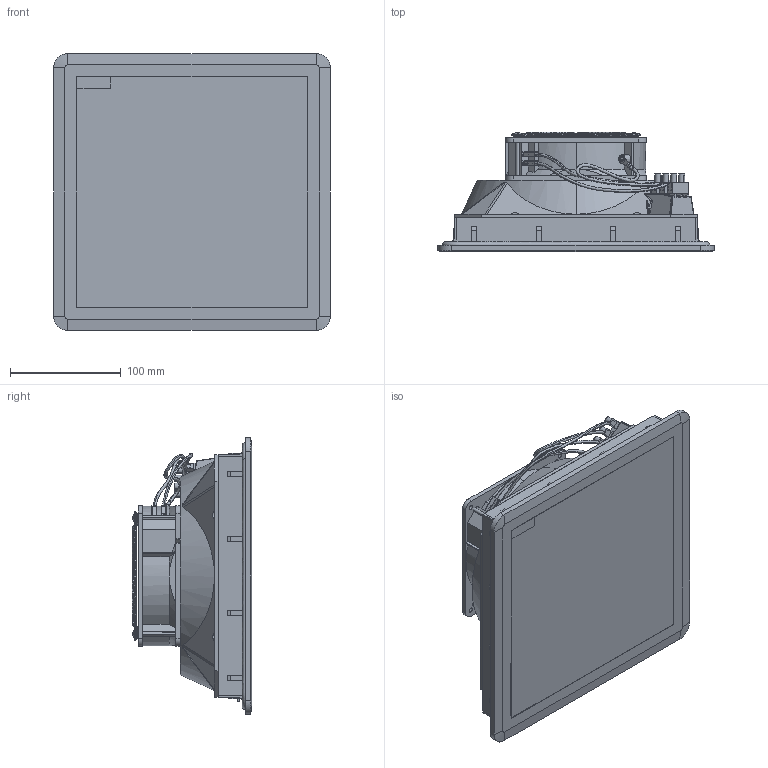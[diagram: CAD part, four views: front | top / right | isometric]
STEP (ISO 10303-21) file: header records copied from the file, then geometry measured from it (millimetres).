
FILE_DESCRIPTION(/* description */ (''),/* implementation_level */ '2;1');
FILE_NAME(/* name */ 'FP9E50~1',/* time_stamp */ '2019-06-26T12:15:24+02:00',/* author */ (''),/* organization */ (''),/* preprocessor_version */ 'ST-DEVELOPER v14',/* originating_system */ '',/* authorisation */ '');
FILE_SCHEMA (('CONFIG_CONTROL_DESIGN'));
Length unit declared in the file: millimetre
Products named in the file (1): Document
Bounding box: 249.31 x 107.9 x 249.31 mm (x, y, z)
Volume: 28727.6 mm3; surface area: 368755.6 mm2
Topology: 14 solids, 25 shells, 1007 faces, 2890 edges, 1977 vertices
Faces by surface type: plane 615, bspline 392
Entity records: 55492 total; most frequent: CARTESIAN_POINT 37865, ORIENTED_EDGE 5491, EDGE_CURVE 2888, VERTEX_POINT 1977, B_SPLINE_CURVE_WITH_KNOTS 1820, EDGE_LOOP 1222, ADVANCED_FACE 1007, FACE_OUTER_BOUND 1007
